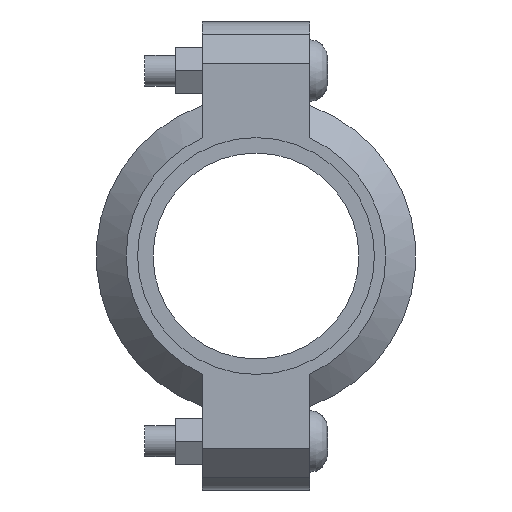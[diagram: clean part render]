
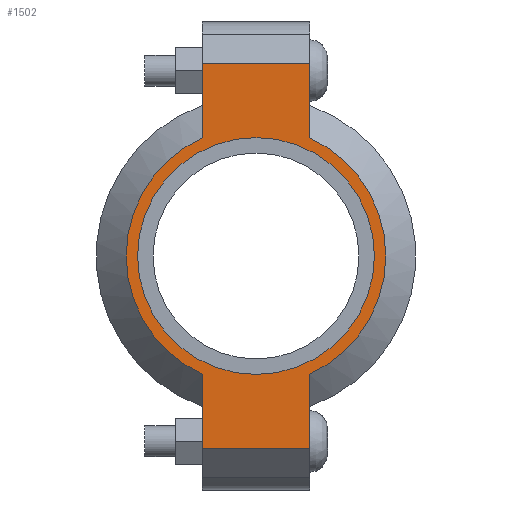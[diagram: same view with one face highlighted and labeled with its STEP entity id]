
A CAD part, left-side view. The second image highlights one B-rep face of the part: STEP entity #1502.
In plain terms, the highlighted planar face has unit normal (-1, 0, 0) as drawn and (0, 0, 1) by its records, which use the part's own axes.
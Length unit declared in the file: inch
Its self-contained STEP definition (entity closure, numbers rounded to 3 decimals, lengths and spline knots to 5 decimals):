
#126=LINE('',#2621,#219);
#134=LINE('',#2657,#227);
#141=LINE('',#2678,#234);
#150=LINE('',#2710,#243);
#151=LINE('',#2714,#244);
#152=LINE('',#2716,#245);
#219=VECTOR('',#2145,0.3937);
#227=VECTOR('',#2161,0.3937);
#234=VECTOR('',#2180,0.3937);
#243=VECTOR('',#2205,0.3937);
#244=VECTOR('',#2210,0.3937);
#245=VECTOR('',#2211,0.3937);
#301=FACE_BOUND('',#479,.T.);
#373=FACE_OUTER_BOUND('',#478,.T.);
#478=EDGE_LOOP('',(#1243,#1244,#1245,#1246,#1247,#1248,#1249,#1250));
#479=EDGE_LOOP('',(#1251));
#551=CIRCLE('',#1721,1.4375);
#577=CIRCLE('',#1780,1.575);
#578=CIRCLE('',#1781,1.575);
#643=VERTEX_POINT('',#2437);
#686=VERTEX_POINT('',#2618);
#687=VERTEX_POINT('',#2620);
#698=VERTEX_POINT('',#2652);
#699=VERTEX_POINT('',#2656);
#706=VERTEX_POINT('',#2675);
#707=VERTEX_POINT('',#2677);
#717=VERTEX_POINT('',#2713);
#718=VERTEX_POINT('',#2715);
#799=EDGE_CURVE('',#643,#643,#551,.T.);
#860=EDGE_CURVE('',#687,#686,#126,.T.);
#874=EDGE_CURVE('',#699,#698,#134,.T.);
#884=EDGE_CURVE('',#707,#706,#141,.T.);
#899=EDGE_CURVE('',#699,#686,#150,.T.);
#900=EDGE_CURVE('',#698,#707,#577,.T.);
#901=EDGE_CURVE('',#717,#706,#151,.T.);
#902=EDGE_CURVE('',#717,#718,#152,.T.);
#903=EDGE_CURVE('',#718,#687,#578,.T.);
#1243=ORIENTED_EDGE('',*,*,#899,.F.);
#1244=ORIENTED_EDGE('',*,*,#874,.T.);
#1245=ORIENTED_EDGE('',*,*,#900,.T.);
#1246=ORIENTED_EDGE('',*,*,#884,.T.);
#1247=ORIENTED_EDGE('',*,*,#901,.F.);
#1248=ORIENTED_EDGE('',*,*,#902,.T.);
#1249=ORIENTED_EDGE('',*,*,#903,.T.);
#1250=ORIENTED_EDGE('',*,*,#860,.T.);
#1251=ORIENTED_EDGE('',*,*,#799,.T.);
#1344=PLANE('',#1779);
#1502=ADVANCED_FACE('',(#373,#301),#1344,.T.);
#1721=AXIS2_PLACEMENT_3D('',#2439,#2021,#2022);
#1779=AXIS2_PLACEMENT_3D('',#2711,#2206,#2207);
#1780=AXIS2_PLACEMENT_3D('',#2712,#2208,#2209);
#1781=AXIS2_PLACEMENT_3D('',#2717,#2212,#2213);
#2021=DIRECTION('center_axis',(0.,0.,-1.));
#2022=DIRECTION('ref_axis',(-1.,0.,0.));
#2145=DIRECTION('',(-1.,0.,0.));
#2161=DIRECTION('',(1.,0.,0.));
#2180=DIRECTION('',(1.,0.,0.));
#2205=DIRECTION('',(0.,1.,0.));
#2206=DIRECTION('center_axis',(0.,0.,1.));
#2207=DIRECTION('ref_axis',(1.,0.,0.));
#2208=DIRECTION('center_axis',(0.,0.,1.));
#2209=DIRECTION('ref_axis',(-1.,0.,0.));
#2210=DIRECTION('',(0.,-1.,0.));
#2211=DIRECTION('',(-1.,0.,0.));
#2212=DIRECTION('center_axis',(0.,0.,1.));
#2213=DIRECTION('ref_axis',(-1.,0.,0.));
#2437=CARTESIAN_POINT('',(1.4375,0.,0.94));
#2439=CARTESIAN_POINT('Origin',(0.,0.,0.94));
#2618=CARTESIAN_POINT('',(-2.34,0.65,0.94));
#2620=CARTESIAN_POINT('',(-1.43462,0.65,0.94));
#2621=CARTESIAN_POINT('',(-2.84,0.65,0.94));
#2652=CARTESIAN_POINT('',(-1.43462,-0.65,0.94));
#2656=CARTESIAN_POINT('',(-2.34,-0.65,0.94));
#2657=CARTESIAN_POINT('',(2.84,-0.65,0.94));
#2675=CARTESIAN_POINT('',(2.34,-0.65,0.94));
#2677=CARTESIAN_POINT('',(1.43462,-0.65,0.94));
#2678=CARTESIAN_POINT('',(2.84,-0.65,0.94));
#2710=CARTESIAN_POINT('',(-2.34,0.325,0.94));
#2711=CARTESIAN_POINT('Origin',(0.,0.,
0.94));
#2712=CARTESIAN_POINT('Origin',(0.,0.,0.94));
#2713=CARTESIAN_POINT('',(2.34,0.65,0.94));
#2714=CARTESIAN_POINT('',(2.34,-0.325,0.94));
#2715=CARTESIAN_POINT('',(1.43462,0.65,0.94));
#2716=CARTESIAN_POINT('',(-2.84,0.65,0.94));
#2717=CARTESIAN_POINT('Origin',(0.,0.,0.94));
